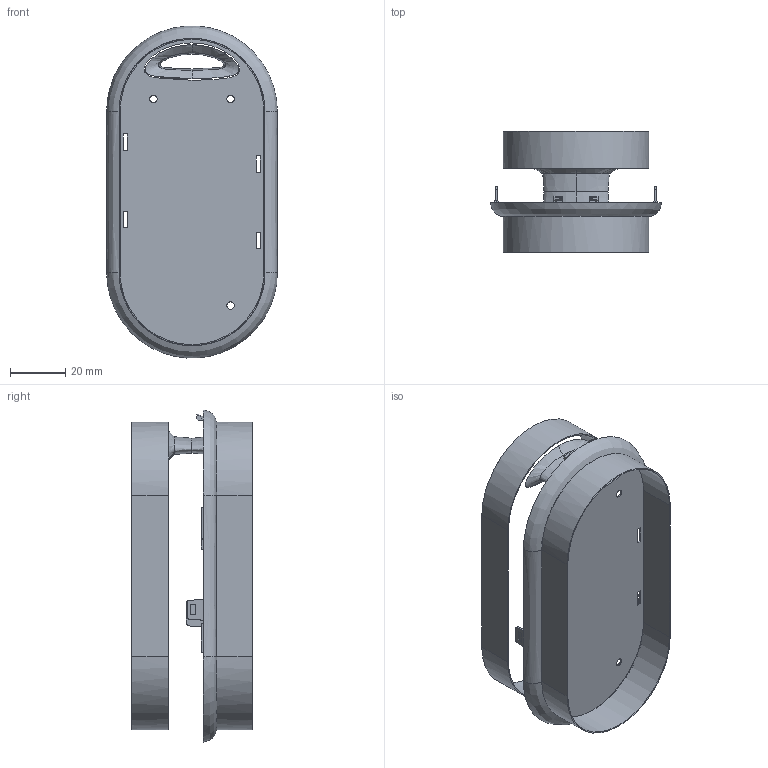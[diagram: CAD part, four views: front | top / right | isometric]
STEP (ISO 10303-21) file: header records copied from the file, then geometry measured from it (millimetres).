
FILE_DESCRIPTION((''),'2;1');
FILE_NAME('GTC01-A-MCB01_PRT','2008-06-30T',('GRA'),(''),'PRO/ENGINEER BY PARAMETRIC TECHNOLOGY CORPORATION, 2006170','PRO/ENGINEER BY PARAMETRIC TECHNOLOGY CORPORATION, 2006170','');
FILE_SCHEMA(('CONFIG_CONTROL_DESIGN'));
Length unit declared in the file: millimetre
Products named in the file (1): GTC01-A-MCB01_PRT
Bounding box: 62 x 43.8 x 120.59 mm (x, y, z)
Volume: 5702.5 mm3; surface area: 31116.9 mm2
Topology: 1 solids, 5 shells, 179 faces, 499 edges, 326 vertices
Faces by surface type: plane 106, cylinder 31, bspline 22, extrusion 20
Entity records: 8283 total; most frequent: CARTESIAN_POINT 4006, ORIENTED_EDGE 974, DIRECTION 657, EDGE_CURVE 499, VECTOR 329, VERTEX_POINT 326, LINE 309, EDGE_LOOP 199
